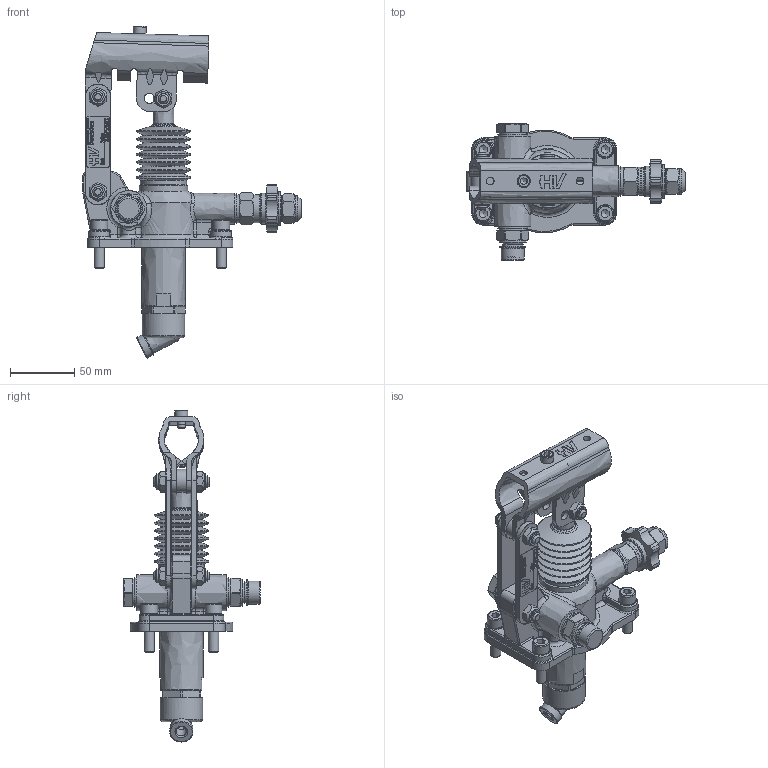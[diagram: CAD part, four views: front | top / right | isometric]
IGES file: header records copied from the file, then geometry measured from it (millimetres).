
Global section: file name: No Iges File Name specified; native system: Autodesk Inventor 2013; preprocessor: AutoDesk Inventor Iges Exporter R2013; author: christian.scardovi; date: 20240227.160600; units: millimetre
Bounding box: 170.5 x 106.5 x 258.54 mm (x, y, z)
Volume: 379078.1 mm3; surface area: 138404.2 mm2
Topology: 31 solids, 31 shells, 1630 faces, 4034 edges, 2547 vertices
Faces by surface type: bspline 1630
